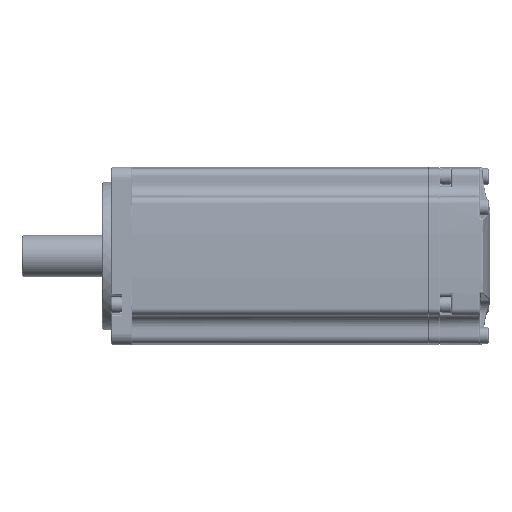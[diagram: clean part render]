
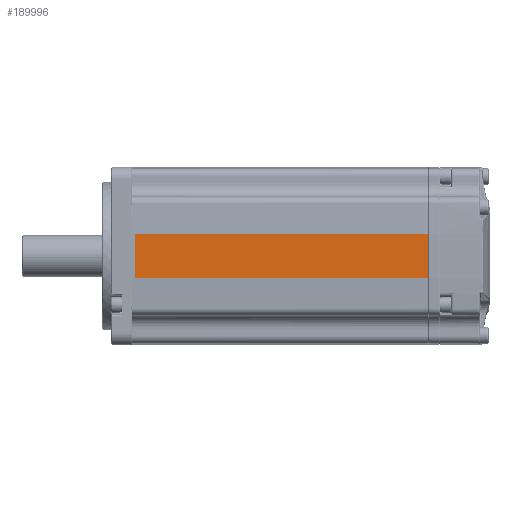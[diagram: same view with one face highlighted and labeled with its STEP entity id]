
A CAD part, front view. The second image highlights one B-rep face of the part: STEP entity #189996.
In plain terms, the highlighted planar face has unit normal (0, -1, 0).
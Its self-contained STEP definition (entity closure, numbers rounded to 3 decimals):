
#1130 = ORIENTED_EDGE ( 'NONE', *, *, #185271, .T. ) ;
#2659 = VERTEX_POINT ( 'NONE', #170513 ) ;
#5643 = AXIS2_PLACEMENT_3D ( 'NONE', #180080, #87491, #195567 ) ;
#7960 = CARTESIAN_POINT ( 'NONE',  ( 104.6, -30., 7.5 ) ) ;
#8196 = CARTESIAN_POINT ( 'NONE',  ( 5.6, -30., 7.5 ) ) ;
#8378 = CARTESIAN_POINT ( 'NONE',  ( 71.6, -30., 7.5 ) ) ;
#9737 = CARTESIAN_POINT ( 'NONE',  ( 38.6, -30., 7.5 ) ) ;
#11815 = EDGE_CURVE ( 'NONE', #56110, #42233, #79934, .T. ) ;
#24615 = CARTESIAN_POINT ( 'NONE',  ( 5.6, -30., -7.5 ) ) ;
#42233 = VERTEX_POINT ( 'NONE', #50535 ) ;
#49060 = CARTESIAN_POINT ( 'NONE',  ( 104.6, -30., 7.5 ) ) ;
#49519 = ORIENTED_EDGE ( 'NONE', *, *, #71894, .F. ) ;
#50396 = CARTESIAN_POINT ( 'NONE',  ( 104.6, -30., -7.5 ) ) ;
#50535 = CARTESIAN_POINT ( 'NONE',  ( 104.6, -30., 7.5 ) ) ;
#51588 = B_SPLINE_CURVE_WITH_KNOTS ( 'NONE', 3,
 ( #133687, #180263, #195747, #103218 ),
 .UNSPECIFIED., .F., .F.,
 ( 4, 4 ),
 ( 0., 1. ),
 .UNSPECIFIED. ) ;
#56110 = VERTEX_POINT ( 'NONE', #118462 ) ;
#71792 = B_SPLINE_CURVE_WITH_KNOTS ( 'NONE', 3,
 ( #86088, #100990, #117216, #24615 ),
 .UNSPECIFIED., .F., .F.,
 ( 4, 4 ),
 ( 0., 1. ),
 .UNSPECIFIED. ) ;
#71894 = EDGE_CURVE ( 'NONE', #42233, #97166, #188512, .T. ) ;
#79934 = B_SPLINE_CURVE_WITH_KNOTS ( 'NONE', 3,
 ( #8196, #9737, #8378, #7960 ),
 .UNSPECIFIED., .F., .F.,
 ( 4, 4 ),
 ( 0., 1. ),
 .UNSPECIFIED. ) ;
#86088 = CARTESIAN_POINT ( 'NONE',  ( 5.6, -30., 7.5 ) ) ;
#87491 = DIRECTION ( 'NONE',  ( 0., 1., 0. ) ) ;
#97166 = VERTEX_POINT ( 'NONE', #139184 ) ;
#100990 = CARTESIAN_POINT ( 'NONE',  ( 5.6, -30., 2.5 ) ) ;
#103218 = CARTESIAN_POINT ( 'NONE',  ( 5.6, -30., -7.5 ) ) ;
#117216 = CARTESIAN_POINT ( 'NONE',  ( 5.6, -30., -2.5 ) ) ;
#117979 = EDGE_LOOP ( 'NONE', ( #1130, #127957, #49519, #119363 ) ) ;
#118462 = CARTESIAN_POINT ( 'NONE',  ( 5.6, -30., 7.5 ) ) ;
#119363 = ORIENTED_EDGE ( 'NONE', *, *, #11815, .F. ) ;
#123201 = EDGE_CURVE ( 'NONE', #97166, #2659, #51588, .T. ) ;
#127957 = ORIENTED_EDGE ( 'NONE', *, *, #123201, .F. ) ;
#133687 = CARTESIAN_POINT ( 'NONE',  ( 104.6, -30., -7.5 ) ) ;
#139163 = FACE_OUTER_BOUND ( 'NONE', #117979, .T. ) ;
#139184 = CARTESIAN_POINT ( 'NONE',  ( 104.6, -30., -7.5 ) ) ;
#142996 = CARTESIAN_POINT ( 'NONE',  ( 104.6, -30., -2.5 ) ) ;
#164586 = PLANE ( 'NONE',  #5643 ) ;
#170513 = CARTESIAN_POINT ( 'NONE',  ( 5.6, -30., -7.5 ) ) ;
#180080 = CARTESIAN_POINT ( 'NONE',  ( 105.1, -30., 7.5 ) ) ;
#180263 = CARTESIAN_POINT ( 'NONE',  ( 71.6, -30., -7.5 ) ) ;
#185271 = EDGE_CURVE ( 'NONE', #56110, #2659, #71792, .T. ) ;
#188233 = CARTESIAN_POINT ( 'NONE',  ( 104.6, -30., 2.5 ) ) ;
#188512 = B_SPLINE_CURVE_WITH_KNOTS ( 'NONE', 3,
 ( #49060, #188233, #142996, #50396 ),
 .UNSPECIFIED., .F., .F.,
 ( 4, 4 ),
 ( 0., 1. ),
 .UNSPECIFIED. ) ;
#189996 = ADVANCED_FACE ( 'NONE', ( #139163 ), #164586, .F. ) ;
#195567 = DIRECTION ( 'NONE',  ( 1., 0., 0. ) ) ;
#195747 = CARTESIAN_POINT ( 'NONE',  ( 38.6, -30., -7.5 ) ) ;
